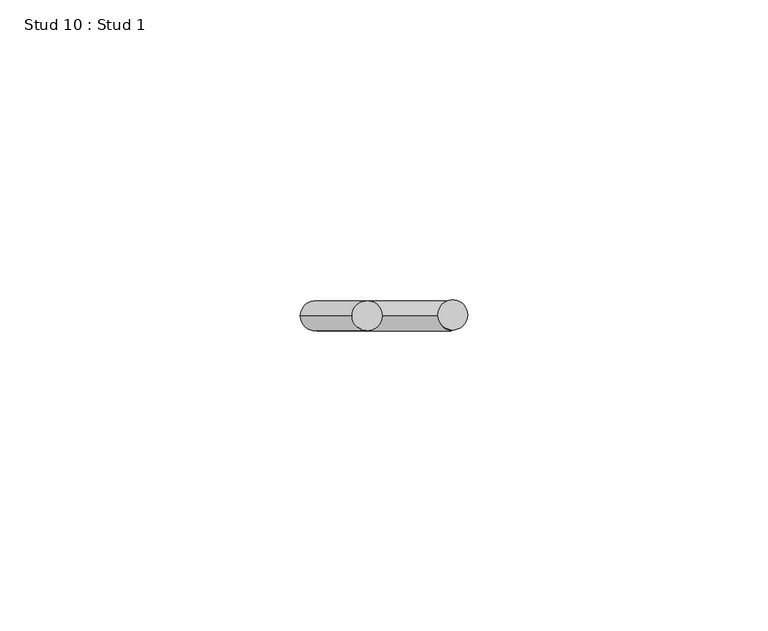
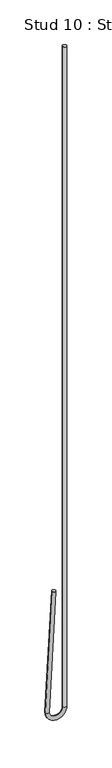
"""IFC4 building model written with IfcOpenShell, lengths in millimetres: proxy geometry, Stud 10 : Stud 1."""

from ifc_helpers import new_model, si_unit, point, frame, origin, place, context, project, spatial, circle_curve, ellipse_curve, trimmed, source, transform, mapped, element, save
from ifc_brep_helpers import plane_surface, cylinder_surface, revolved_surface, advanced_brep


def stud_10_stud_1_f9c7235b(model_context):
    return source(origin(), model_context, "Body", "AdvancedBrep", [
        advanced_brep(
        [(-12209.2532788, 886.5972731, 3640.800192), (-12204.2601311, 886.5972731, 3640.5385122), (-12217.8939451, 886.5972731, 3475.9264558), (-12212.9007975, 886.5972731, 3475.664776), (-12194.9920812, 886.5972731, 3475.7956159), (-12189.9920812, 886.5972731, 3475.7956159), (-12189.9920812, 886.5972731, 4390.1956159), (-12194.9920812, 886.5972731, 4390.1956159)],
        [
            (0, 1, circle_curve(frame((-12206.7567049, 886.5972731, 3640.6693521), z_axis=(0.05233595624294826, 0.0, 0.9986295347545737), x_axis=(0.9986295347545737, 0.0, -0.05233595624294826)), 2.5)),
            (1, 0, circle_curve(frame((-12206.7567049, 886.5972731, 3640.6693521), z_axis=(0.05233595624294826, 0.0, 0.9986295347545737), x_axis=(0.9986295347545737, 0.0, -0.05233595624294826)), 2.5)),
            (0, 2),
            (2, 3, circle_curve(frame((-12215.3973713, 886.5972731, 3475.7956159), z_axis=(0.05233595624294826, 0.0, 0.9986295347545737), x_axis=(0.9986295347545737, 0.0, -0.05233595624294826)), 2.5)),
            (3, 1),
            (3, 2, circle_curve(frame((-12215.3973713, 886.5972731, 3475.7956159), z_axis=(0.05233595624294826, 0.0, 0.9986295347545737), x_axis=(0.9986295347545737, 0.0, -0.05233595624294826)), 2.5)),
            (4, 3, circle_curve(frame((-12203.9447263, 886.5972731, 3475.7956159), z_axis=(0.0, 1.0, 0.0), x_axis=(-1.0, 0.0, 0.0)), 8.952645)),
            (2, 5, circle_curve(frame((-12203.9447263, 886.5972731, 3475.7956159), z_axis=(0.0, -1.0, 0.0), x_axis=(-1.0, 0.0, 0.0)), 13.952645)),
            (5, 4, circle_curve(frame((-12192.4920812, 886.5972731, 3475.7956159), z_axis=(0.0, 0.0, -1.0), x_axis=(-1.0, 0.0, 0.0)), 2.5)),
            (4, 5, circle_curve(frame((-12192.4920812, 886.5972731, 3475.7956159), z_axis=(0.0, 0.0, -1.0), x_axis=(-1.0, 0.0, 0.0)), 2.5)),
            (6, 7, circle_curve(frame((-12192.4920812, 886.5972731, 4390.1956159), z_axis=(0.0, 0.0, 1.0), x_axis=(-1.0, 0.0, 0.0)), 2.5)),
            (7, 6, circle_curve(frame((-12192.4920812, 886.5972731, 4390.1956159), z_axis=(0.0, 0.0, 1.0), x_axis=(-1.0, 0.0, 0.0)), 2.5)),
            (5, 6),
            (7, 4),
        ],
        [
            plane_surface(frame((-12206.7567049, 1480.3222731, 3640.6693521), z_axis=(0.05233595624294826, 0.0, 0.9986295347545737), x_axis=(0.0, -1.0, 0.0))),
            cylinder_surface(frame((-12206.7567049, 886.5972731, 3640.6693521), z_axis=(0.05233595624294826, 0.0, 0.9986295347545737), x_axis=(0.9986295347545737, 0.0, -0.05233595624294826)), 2.5),
            revolved_surface(trimmed(ellipse_curve(frame((-12215.3973713, 886.5972731, 3475.7956159), z_axis=(0.0, 0.0, 1.0), x_axis=(1.0, 0.0, 0.0)), 2.5, 2.5), [point((-12217.8973713, 886.5972731, 3475.7956159))], [point((-12212.8973713, 886.5972731, 3475.7956159))], True, "CARTESIAN"), (-12203.9447263, 1480.3222731, 3475.7956159), (0.0, -1.0, 0.0)),
            revolved_surface(trimmed(ellipse_curve(frame((-12215.3973713, 886.5972731, 3475.7956159), z_axis=(0.0, 0.0, 1.0), x_axis=(1.0, 0.0, 0.0)), 2.5, 2.5), [point((-12212.8973713, 886.5972731, 3475.7956159))], [point((-12217.8973713, 886.5972731, 3475.7956159))], True, "CARTESIAN"), (-12203.9447263, 1480.3222731, 3475.7956159), (0.0, -1.0, 0.0)),
            plane_surface(frame((-12192.4920812, 1480.3222731, 4390.1956159), z_axis=(0.0, 0.0, 1.0), x_axis=(0.0, -1.0, 0.0))),
            cylinder_surface(frame((-12192.4920812, 886.5972731, 3475.7956159), z_axis=(0.0, 0.0, -1.0), x_axis=(-1.0, 0.0, 0.0)), 2.5),
        ],
        [
            (0, [[1, 2]]),
            (1, [[-1, 3, 4, 5]]),
            (1, [[-2, -5, 6, -3]]),
            (2, [[7, -4, 8, 9]]),
            (3, [[-8, -6, -7, 10]]),
            (4, [[11, 12]]),
            (5, [[-9, 13, -12, 14]]),
            (5, [[-10, -14, -11, -13]]),
        ],
    ),
    ])


if __name__ == "__main__":
    model = new_model("IFC4")
    model_context = context("Model", 3, world=origin())
    ifc_project = project(units=[si_unit("LENGTHUNIT", "METRE", prefix="MILLI")], contexts=[model_context])
    site = spatial("IfcSite", under=ifc_project)
    building = spatial("IfcBuilding", under=site)
    placement = place(None, origin())
    stud_10_stud_1_shape = stud_10_stud_1_f9c7235b(model_context)
    element("IfcBuildingElementProxy", 1, Name="Stud 10 : Stud 1", ObjectType="Stud 10 : Stud 1", at=placement, inside=building, context=model_context, shape_type="MappedRepresentation", body=[
        mapped(stud_10_stud_1_shape, transform((0.0, 0.0, 0.0), x_axis=(1.0, 0.0, 0.0), y_axis=(0.0, 1.0, 0.0), z_axis=(0.0, 0.0, 1.0))),
    ])
    save(model, "model.ifc")
